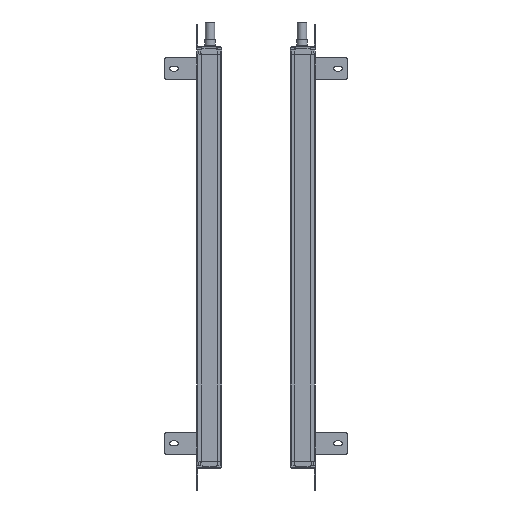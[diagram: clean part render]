
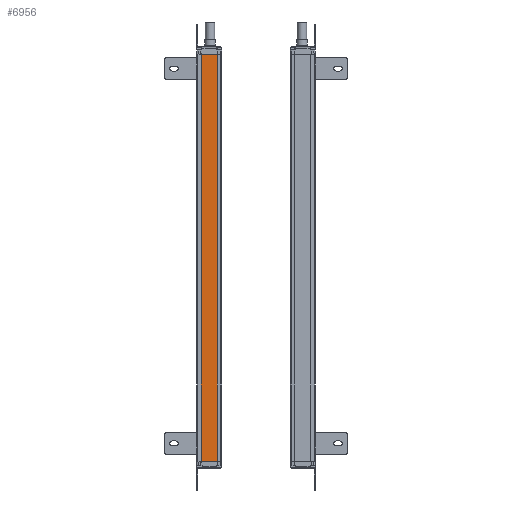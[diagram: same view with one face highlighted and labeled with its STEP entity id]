
A CAD part, left-side view. The second image highlights one B-rep face of the part: STEP entity #6956.
In plain terms, the highlighted planar face has unit normal (-1, 0, 0).
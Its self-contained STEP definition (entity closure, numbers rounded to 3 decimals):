
#953=FACE_OUTER_BOUND('',#9034,.T.);
#2188=LINE('',#33710,#4326);
#2290=LINE('',#34050,#4428);
#2291=LINE('',#34052,#4429);
#2292=LINE('',#34054,#4430);
#4326=VECTOR('',#26897,1.);
#4428=VECTOR('',#27185,1.);
#4429=VECTOR('',#27188,1.);
#4430=VECTOR('',#27189,1.);
#6178=PLANE('',#23723);
#6956=ADVANCED_FACE('',(#953),#6178,.T.);
#9034=EDGE_LOOP('',(#11681,#11682,#11683,#11684));
#11681=ORIENTED_EDGE('',*,*,#19828,.F.);
#11682=ORIENTED_EDGE('',*,*,#19829,.T.);
#11683=ORIENTED_EDGE('',*,*,#19830,.T.);
#11684=ORIENTED_EDGE('',*,*,#19658,.F.);
#17203=VERTEX_POINT('',#33709);
#17204=VERTEX_POINT('',#33711);
#17348=VERTEX_POINT('',#34049);
#17349=VERTEX_POINT('',#34053);
#19658=EDGE_CURVE('',#17203,#17204,#2188,.T.);
#19828=EDGE_CURVE('',#17348,#17203,#2290,.T.);
#19829=EDGE_CURVE('',#17348,#17349,#2291,.T.);
#19830=EDGE_CURVE('',#17349,#17204,#2292,.T.);
#23723=AXIS2_PLACEMENT_3D('',#34055,#27190,#27191);
#26897=DIRECTION('',(0.,-1.,0.));
#27185=DIRECTION('',(0.,0.,1.));
#27188=DIRECTION('',(0.,-1.,0.));
#27189=DIRECTION('',(0.,0.,1.));
#27190=DIRECTION('',(-1.,0.,0.));
#27191=DIRECTION('',(0.,-1.,0.));
#33709=CARTESIAN_POINT('',(233.846,104.141,31.645));
#33710=CARTESIAN_POINT('',(233.846,81.141,31.645));
#33711=CARTESIAN_POINT('',(233.846,81.141,31.645));
#34049=CARTESIAN_POINT('',(233.846,104.141,-543.355));
#34050=CARTESIAN_POINT('',(233.846,104.141,-155.355));
#34052=CARTESIAN_POINT('',(233.846,81.141,-543.355));
#34053=CARTESIAN_POINT('',(233.846,81.141,-543.355));
#34054=CARTESIAN_POINT('',(233.846,81.141,-155.355));
#34055=CARTESIAN_POINT('',(233.846,81.141,-50.355));
